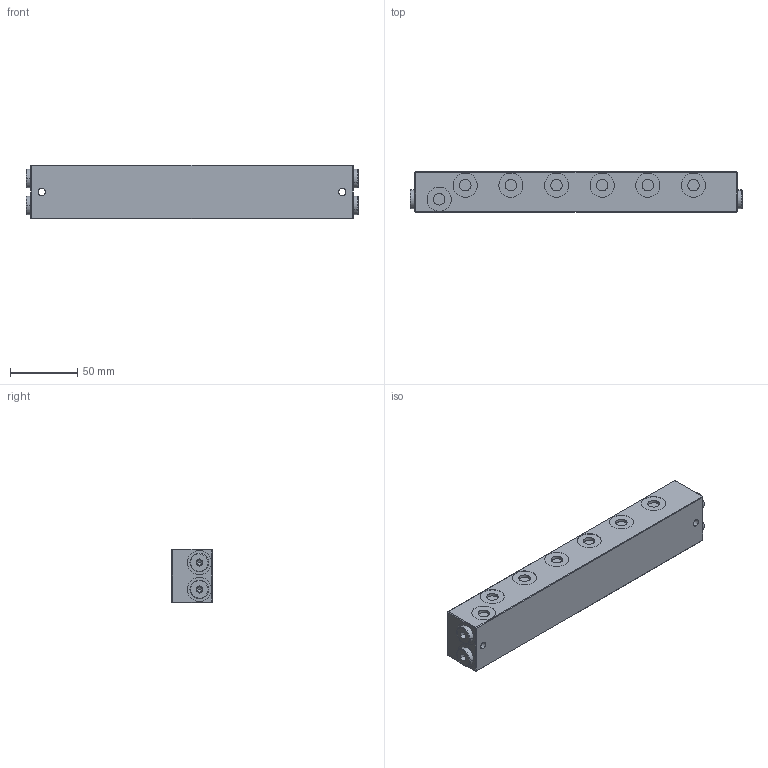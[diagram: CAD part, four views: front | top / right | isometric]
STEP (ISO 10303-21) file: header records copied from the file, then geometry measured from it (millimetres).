
FILE_DESCRIPTION (( 'STEP AP214' ), '1' );
FILE_NAME ('B3_6.STEP', '2017-05-01T13:32:21', ( '' ), ( '' ), 'SwSTEP 2.0', 'SolidWorks 2016', '' );
FILE_SCHEMA (( 'AUTOMOTIVE_DESIGN' ));
Length unit declared in the file: millimetre
Products named in the file (1): B3_6
Bounding box: 247.4 x 30 x 40 mm (x, y, z)
Volume: 284281.9 mm3; surface area: 41493.8 mm2
Topology: 5 solids, 9 shells, 376 faces, 788 edges, 510 vertices
Faces by surface type: cylinder 200, plane 152, cone 16, torus 8
Entity records: 13768 total; most frequent: DIRECTION 1988, CARTESIAN_POINT 1675, ORIENTED_EDGE 1576, AXIS2_PLACEMENT_3D 823, EDGE_CURVE 788, VERTEX_POINT 510, EDGE_LOOP 476, CIRCLE 446
